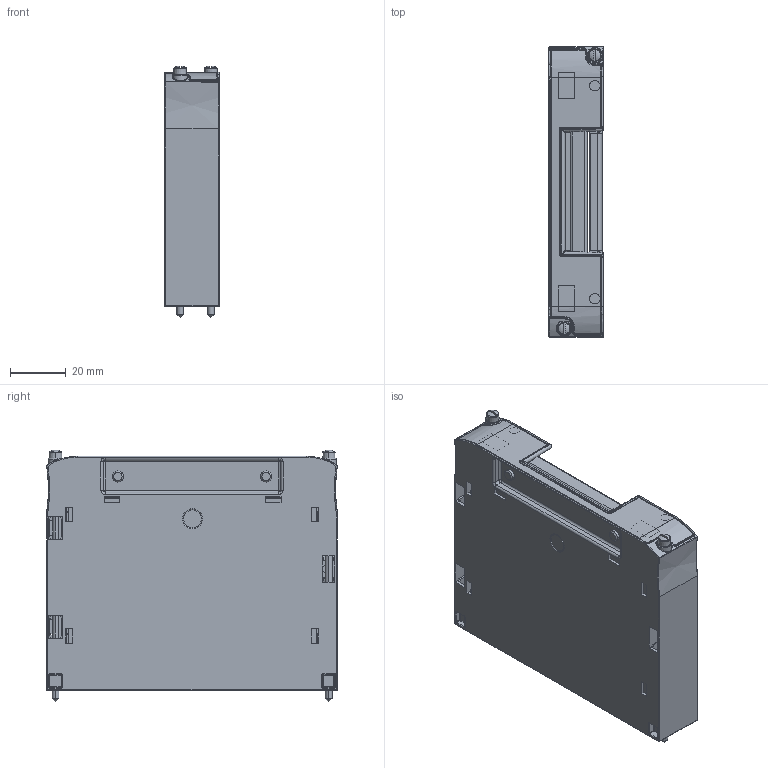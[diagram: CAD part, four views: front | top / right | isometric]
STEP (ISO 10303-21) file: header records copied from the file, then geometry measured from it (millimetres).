
FILE_DESCRIPTION((''),'2;1');
FILE_NAME('CU_TB-2637','2011-08-10T',('jjorden'),(''),'PRO/ENGINEER BY PARAMETRIC TECHNOLOGY CORPORATION, 2010230','PRO/ENGINEER BY PARAMETRIC TECHNOLOGY CORPORATION, 2010230','');
FILE_SCHEMA(('CONFIG_CONTROL_DESIGN'));
Products named in the file (1): CU_TB-2637
Bounding box: 19.53 x 104.54 x 90.6 mm (x, y, z)
Volume: 72005.7 mm3; surface area: 74309.8 mm2
Topology: 2 solids, 2 shells, 2690 faces, 6679 edges, 4096 vertices
Faces by surface type: plane 1526, cylinder 625, bspline 227, torus 126, sphere 116, cone 70
Entity records: 102039 total; most frequent: CARTESIAN_POINT 39418, ORIENTED_EDGE 13324, DIRECTION 12351, EDGE_CURVE 6662, VECTOR 4509, LINE 4509, VERTEX_POINT 4115, AXIS2_PLACEMENT_3D 3921
